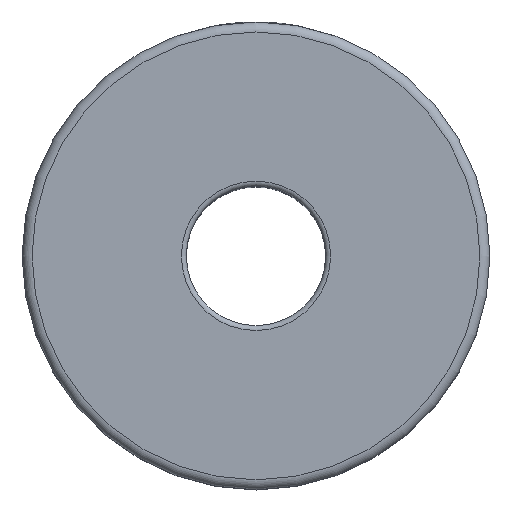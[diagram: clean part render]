
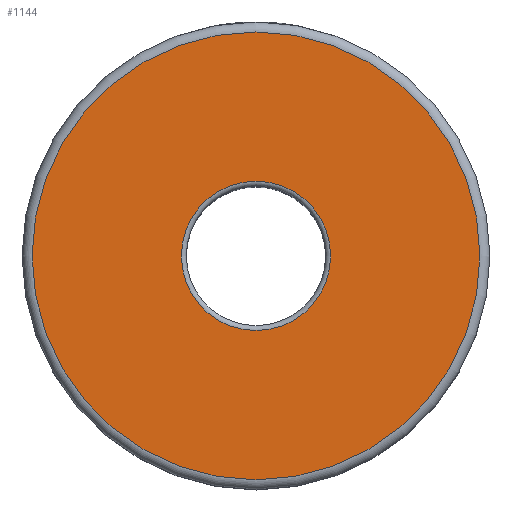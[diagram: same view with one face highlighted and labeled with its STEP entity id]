
A CAD part, top view. The second image highlights one B-rep face of the part: STEP entity #1144.
In plain terms, the highlighted planar face has unit normal (0, 0, 1).
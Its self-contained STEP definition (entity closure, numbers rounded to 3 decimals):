
#35=FACE_BOUND('',#409,.T.);
#235=PLANE('',#1258);
#337=FACE_OUTER_BOUND('',#408,.T.);
#408=EDGE_LOOP('',(#875));
#409=EDGE_LOOP('',(#876));
#497=CIRCLE('',#1254,7.5);
#501=CIRCLE('',#1259,22.5);
#572=VERTEX_POINT('',#2018);
#575=VERTEX_POINT('',#2026);
#689=EDGE_CURVE('',#572,#572,#497,.T.);
#693=EDGE_CURVE('',#575,#575,#501,.T.);
#875=ORIENTED_EDGE('',*,*,#693,.F.);
#876=ORIENTED_EDGE('',*,*,#689,.F.);
#1144=ADVANCED_FACE('',(#337,#35),#235,.T.);
#1254=AXIS2_PLACEMENT_3D('',#2019,#1428,#1429);
#1258=AXIS2_PLACEMENT_3D('',#2025,#1436,#1437);
#1259=AXIS2_PLACEMENT_3D('',#2027,#1438,#1439);
#1428=DIRECTION('center_axis',(0.,0.,1.));
#1429=DIRECTION('ref_axis',(0.,1.,0.));
#1436=DIRECTION('center_axis',(0.,0.,1.));
#1437=DIRECTION('ref_axis',(1.,0.,0.));
#1438=DIRECTION('center_axis',(0.,0.,-1.));
#1439=DIRECTION('ref_axis',(0.,1.,0.));
#2018=CARTESIAN_POINT('',(7.5,0.,0.));
#2019=CARTESIAN_POINT('Origin',(0.,0.,0.));
#2025=CARTESIAN_POINT('Origin',(0.,-23.5,0.));
#2026=CARTESIAN_POINT('',(22.5,0.,0.));
#2027=CARTESIAN_POINT('Origin',(0.,0.,0.));
